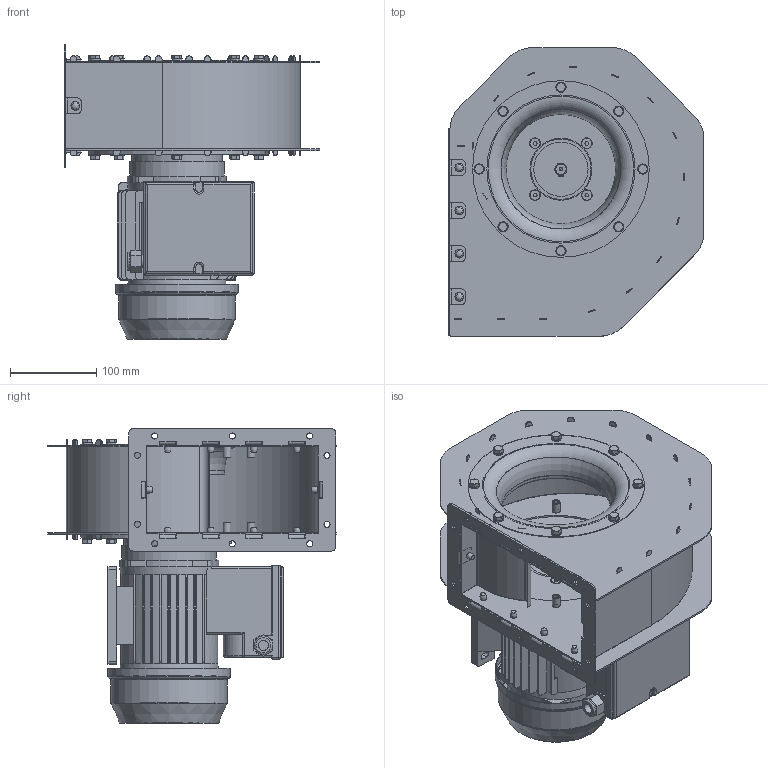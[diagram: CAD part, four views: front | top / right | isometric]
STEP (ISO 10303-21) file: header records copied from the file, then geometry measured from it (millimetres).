
FILE_DESCRIPTION(/* description */ (''),/* implementation_level */ '2;1');
FILE_NAME(/* name */ 'T:\Drawings\Standard Drawings\DATA Web Downloads\3D FILES\HFM-160-62 _ 3D12-0198.stp',/* time_stamp */ '2015-02-18T13:48:54+00:00',/* author */ ('mtinkler'),/* organization */ (''),/* preprocessor_version */ 'ST-DEVELOPER v15.6',/* originating_system */ 'Autodesk Inventor 2015',/* authorisation */ '');
FILE_SCHEMA (('AUTOMOTIVE_DESIGN { 1 0 10303 214 3 1 1 }'));
Products named in the file (1): 3D12-0198
Bounding box: 297 x 335 x 342 mm (x, y, z)
Volume: 3340894 mm3; surface area: 893986.2 mm2
Topology: 71 solids, 71 shells, 1958 faces, 5023 edges, 3248 vertices
Faces by surface type: plane 1218, cylinder 514, cone 150, torus 45, sphere 21, bspline 10
Full cylindrical faces by diameter (mm): 4.134 x1, 4.8 x10, 4.917 x4, 5 x20, 6 x36, 6.5 x20, 7 x10, 9 x17, 9.1 x16, 11.5 x1, 11.7 x4, 14 x2, 21.5 x1, 63 x1, 70 x1, 72 x1, 110 x1, 127 x1, 128.6 x1, 133 x1, 135 x1, 140 x1, 142 x1, 172 x2, 205 x2
Entity records: 60896 total; most frequent: CARTESIAN_POINT 11681, DIRECTION 9612, ORIENTED_EDGE 9390, EDGE_CURVE 4695, AXIS2_PLACEMENT_3D 3326, VERTEX_POINT 3181, LINE 2960, VECTOR 2960
